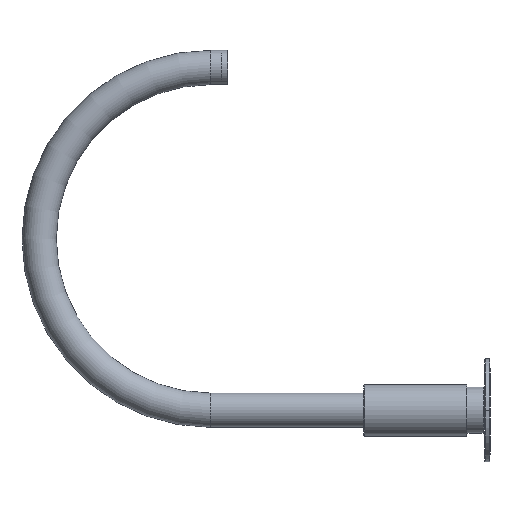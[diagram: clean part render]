
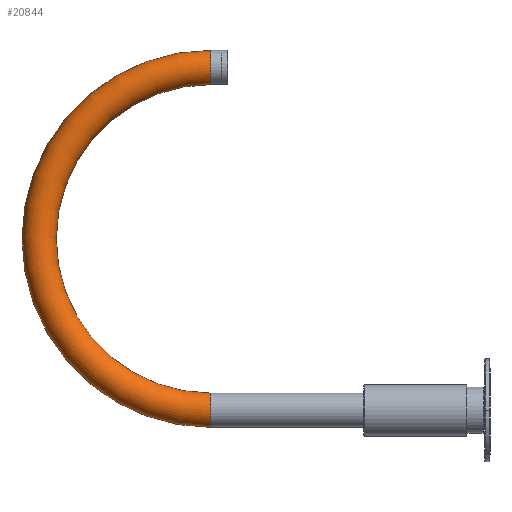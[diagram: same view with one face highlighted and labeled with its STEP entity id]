
A CAD part, left-side view. The second image highlights one B-rep face of the part: STEP entity #20844.
In plain terms, the highlighted toroidal (fillet/blend) face has major radius 100 mm and minor radius 10 mm.
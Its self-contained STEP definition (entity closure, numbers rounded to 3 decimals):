
#20152=CARTESIAN_POINT('',(0.,179.,100.));
#20153=DIRECTION('',(1.,0.,0.));
#20154=DIRECTION('',(0.,0.,-1.));
#20155=AXIS2_PLACEMENT_3D('',#20152,#20153,#20154);
#20157=CARTESIAN_POINT('',(0.,179.,0.));
#20158=DIRECTION('',(0.,1.,0.));
#20159=DIRECTION('',(0.,0.,-1.));
#20160=AXIS2_PLACEMENT_3D('',#20157,#20158,#20159);
#20162=CARTESIAN_POINT('',(0.,179.,100.));
#20163=DIRECTION('',(1.,0.,0.));
#20164=DIRECTION('',(0.,0.,-1.));
#20165=AXIS2_PLACEMENT_3D('',#20162,#20163,#20164);
#20167=CARTESIAN_POINT('',(0.,179.,200.));
#20168=DIRECTION('',(0.,-1.,0.));
#20169=DIRECTION('',(0.,0.,1.));
#20170=AXIS2_PLACEMENT_3D('',#20167,#20168,#20169);
#20447=CARTESIAN_POINT('',(0.,179.,-10.));
#20448=CARTESIAN_POINT('',(0.,179.,10.));
#20449=VERTEX_POINT('',#20447);
#20450=VERTEX_POINT('',#20448);
#20455=CARTESIAN_POINT('',(0.,179.,210.));
#20456=CARTESIAN_POINT('',(0.,179.,190.));
#20457=VERTEX_POINT('',#20455);
#20458=VERTEX_POINT('',#20456);
#20832=CARTESIAN_POINT('',(0.,179.,100.));
#20833=DIRECTION('',(1.,0.,0.));
#20834=DIRECTION('',(0.,0.,1.));
#20835=AXIS2_PLACEMENT_3D('',#20832,#20833,#20834);
#20836=TOROIDAL_SURFACE('',#20835,100.,10.);
#20837=ORIENTED_EDGE('',*,*,#20797,.F.);
#20838=ORIENTED_EDGE('',*,*,#20827,.T.);
#20840=ORIENTED_EDGE('',*,*,#20839,.T.);
#20841=ORIENTED_EDGE('',*,*,#20823,.F.);
#20842=EDGE_LOOP('',(#20837,#20838,#20840,#20841));
#20843=FACE_OUTER_BOUND('',#20842,.F.);
#20844=ADVANCED_FACE('',(#20843),#20836,.T.);
#20156=CIRCLE('',#20155,90.);
#20161=CIRCLE('',#20160,10.);
#20166=CIRCLE('',#20165,110.);
#20171=CIRCLE('',#20170,10.);
#20797=EDGE_CURVE('',#20449,#20450,#20161,.T.);
#20823=EDGE_CURVE('',#20450,#20458,#20156,.T.);
#20827=EDGE_CURVE('',#20449,#20457,#20166,.T.);
#20839=EDGE_CURVE('',#20457,#20458,#20171,.T.);
